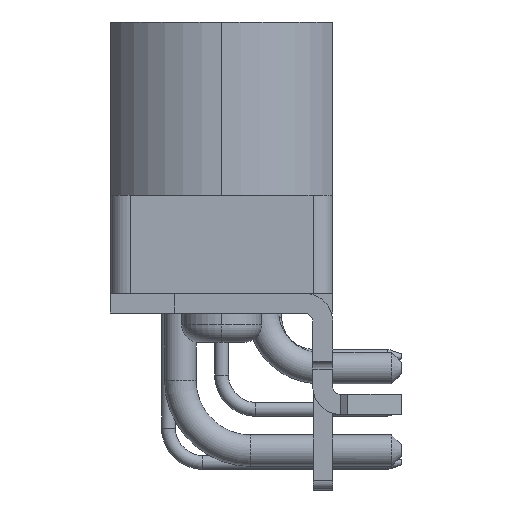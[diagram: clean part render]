
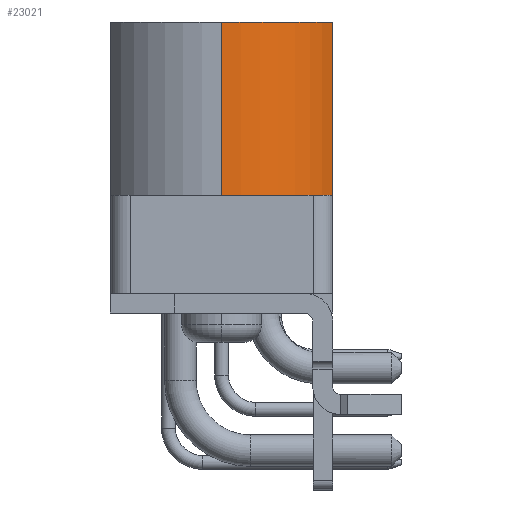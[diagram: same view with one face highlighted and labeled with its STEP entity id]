
A CAD part, left-side view. The second image highlights one B-rep face of the part: STEP entity #23021.
In plain terms, the highlighted cylindrical face has radius 6.37 mm (diameter 12.74 mm), a partial arc.
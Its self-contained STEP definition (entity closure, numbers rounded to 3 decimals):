
#775 = LINE ( 'NONE', #44890, #52365 ) ;
#3696 = LINE ( 'NONE', #29598, #42800 ) ;
#3977 = CARTESIAN_POINT ( 'NONE',  ( -9.53, 0., 9.2 ) ) ;
#9097 = EDGE_CURVE ( 'NONE', #32160, #31180, #54168, .T. ) ;
#11646 = FACE_OUTER_BOUND ( 'NONE', #37868, .T. ) ;
#12191 = DIRECTION ( 'NONE',  ( -1., 0., 0. ) ) ;
#12251 = DIRECTION ( 'NONE',  ( 0., 0., -1. ) ) ;
#13253 = AXIS2_PLACEMENT_3D ( 'NONE', #29541, #56253, #12191 ) ;
#13315 = CARTESIAN_POINT ( 'NONE',  ( -15.9, 0., 0.4 ) ) ;
#14748 = AXIS2_PLACEMENT_3D ( 'NONE', #38087, #46612, #55983 ) ;
#15216 = EDGE_CURVE ( 'NONE', #57936, #50556, #23572, .T. ) ;
#19382 = CARTESIAN_POINT ( 'NONE',  ( -12.472, -5.65, 0.4 ) ) ;
#23021 = ADVANCED_FACE ( 'NONE', ( #11646 ), #26029, .T. ) ;
#23572 = CIRCLE ( 'NONE', #13253, 6.37 ) ;
#26029 = CYLINDRICAL_SURFACE ( 'NONE', #41757, 6.37 ) ;
#28159 = CARTESIAN_POINT ( 'NONE',  ( -15.9, 0., 9.2 ) ) ;
#29094 = ORIENTED_EDGE ( 'NONE', *, *, #34835, .F. ) ;
#29541 = CARTESIAN_POINT ( 'NONE',  ( -9.53, 0., 0.4 ) ) ;
#29598 = CARTESIAN_POINT ( 'NONE',  ( -15.9, 0., 9.2 ) ) ;
#31180 = VERTEX_POINT ( 'NONE', #51215 ) ;
#32160 = VERTEX_POINT ( 'NONE', #28159 ) ;
#32247 = EDGE_CURVE ( 'NONE', #32160, #57936, #3696, .T. ) ;
#33465 = ORIENTED_EDGE ( 'NONE', *, *, #15216, .T. ) ;
#34835 = EDGE_CURVE ( 'NONE', #31180, #50556, #775, .T. ) ;
#37868 = EDGE_LOOP ( 'NONE', ( #47202, #51857, #33465, #29094 ) ) ;
#38087 = CARTESIAN_POINT ( 'NONE',  ( -9.53, 0., 9.2 ) ) ;
#38695 = DIRECTION ( 'NONE',  ( 0., 0., -1. ) ) ;
#39842 = DIRECTION ( 'NONE',  ( -1., 0., 0. ) ) ;
#41757 = AXIS2_PLACEMENT_3D ( 'NONE', #3977, #38695, #39842 ) ;
#42800 = VECTOR ( 'NONE', #12251, 1000. ) ;
#44890 = CARTESIAN_POINT ( 'NONE',  ( -12.472, -5.65, 9.2 ) ) ;
#46612 = DIRECTION ( 'NONE',  ( 0., 0., 1. ) ) ;
#47202 = ORIENTED_EDGE ( 'NONE', *, *, #9097, .F. ) ;
#50556 = VERTEX_POINT ( 'NONE', #19382 ) ;
#51215 = CARTESIAN_POINT ( 'NONE',  ( -12.472, -5.65, 9.2 ) ) ;
#51857 = ORIENTED_EDGE ( 'NONE', *, *, #32247, .T. ) ;
#52365 = VECTOR ( 'NONE', #58111, 1000. ) ;
#54168 = CIRCLE ( 'NONE', #14748, 6.37 ) ;
#55983 = DIRECTION ( 'NONE',  ( -1., 0., 0. ) ) ;
#56253 = DIRECTION ( 'NONE',  ( 0., 0., 1. ) ) ;
#57936 = VERTEX_POINT ( 'NONE', #13315 ) ;
#58111 = DIRECTION ( 'NONE',  ( 0., 0., -1. ) ) ;
